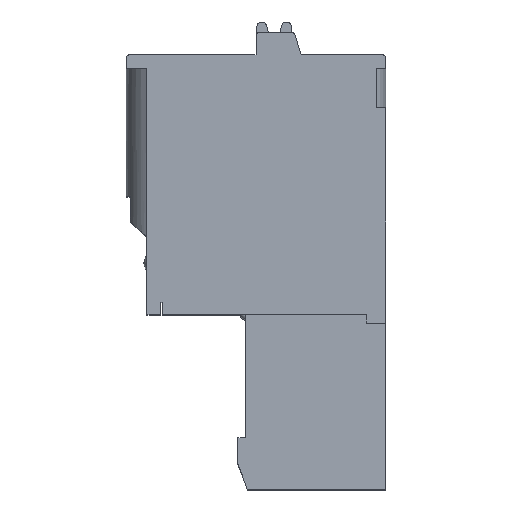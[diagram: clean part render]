
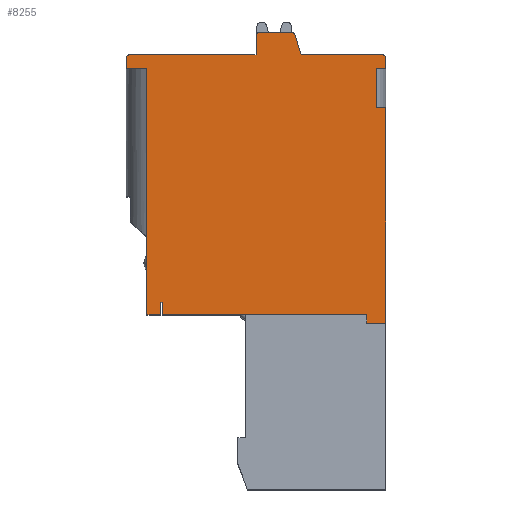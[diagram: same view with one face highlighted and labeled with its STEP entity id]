
A CAD part, top view. The second image highlights one B-rep face of the part: STEP entity #8255.
In plain terms, the highlighted planar face has unit normal (0, 0, 1).
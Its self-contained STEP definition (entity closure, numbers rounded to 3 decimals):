
#111=DIRECTION('',(1.,0.,0.));
#112=VECTOR('',#111,4.8);
#113=CARTESIAN_POINT('',(2.103,0.5,-15.24));
#114=LINE('',#113,#112);
#149=DIRECTION('',(0.,-1.,0.));
#150=VECTOR('',#149,0.7);
#151=CARTESIAN_POINT('',(2.103,1.2,-15.24));
#152=LINE('',#151,#150);
#165=DIRECTION('',(0.,1.,0.));
#166=VECTOR('',#165,0.7);
#167=CARTESIAN_POINT('',(2.003,0.5,-15.24));
#168=LINE('',#167,#166);
#169=DIRECTION('',(1.,0.,0.));
#170=VECTOR('',#169,0.8);
#171=CARTESIAN_POINT('',(1.203,0.5,-15.24));
#172=LINE('',#171,#170);
#181=DIRECTION('',(0.,-1.,0.));
#182=VECTOR('',#181,14.2);
#183=CARTESIAN_POINT('',(1.203,14.7,-15.24));
#184=LINE('',#183,#182);
#488=DIRECTION('',(-1.,0.,0.));
#489=VECTOR('',#488,7.3);
#490=CARTESIAN_POINT('',(7.503,15.5,-15.24));
#491=LINE('',#490,#489);
#652=DIRECTION('',(0.,1.,0.));
#653=VECTOR('',#652,0.6);
#654=CARTESIAN_POINT('',(15.003,14.7,-15.24));
#655=LINE('',#654,#653);
#768=DIRECTION('',(0.,1.,0.));
#769=VECTOR('',#768,12.45);
#770=CARTESIAN_POINT('',(15.003,0.,-15.24));
#771=LINE('',#770,#769);
#1174=DIRECTION('',(0.,-1.,0.));
#1175=VECTOR('',#1174,0.5);
#1176=CARTESIAN_POINT('',(13.903,0.5,-15.24));
#1177=LINE('',#1176,#1175);
#1186=DIRECTION('',(-1.,0.,0.));
#1187=VECTOR('',#1186,1.1);
#1188=CARTESIAN_POINT('',(15.003,0.,-15.24));
#1189=LINE('',#1188,#1187);
#1190=DIRECTION('',(-1.,0.,0.));
#1191=VECTOR('',#1190,7.);
#1192=CARTESIAN_POINT('',(13.903,0.5,-15.24));
#1193=LINE('',#1192,#1191);
#1194=DIRECTION('',(-1.,0.,0.));
#1195=VECTOR('',#1194,0.1);
#1196=CARTESIAN_POINT('',(2.103,1.2,-15.24));
#1197=LINE('',#1196,#1195);
#1198=CARTESIAN_POINT('',(0.203,15.3,-15.24));
#1199=DIRECTION('',(0.,0.,-1.));
#1200=DIRECTION('',(-1.,0.,0.));
#1201=AXIS2_PLACEMENT_3D('',#1198,#1199,#1200);
#1203=CARTESIAN_POINT('',(7.703,16.6,-15.24));
#1204=DIRECTION('',(0.,0.,-1.));
#1205=DIRECTION('',(-1.,0.,0.));
#1206=AXIS2_PLACEMENT_3D('',#1203,#1204,#1205);
#1208=DIRECTION('',(1.,0.,0.));
#1209=VECTOR('',#1208,1.852);
#1210=CARTESIAN_POINT('',(7.703,16.8,-15.24));
#1211=LINE('',#1210,#1209);
#1212=CARTESIAN_POINT('',(9.555,16.6,-15.24));
#1213=DIRECTION('',(0.,0.,-1.));
#1214=DIRECTION('',(0.,1.,0.));
#1215=AXIS2_PLACEMENT_3D('',#1212,#1213,#1214);
#1217=DIRECTION('',(0.294,-0.956,0.));
#1218=VECTOR('',#1217,1.212);
#1219=CARTESIAN_POINT('',(9.746,16.659,-15.24));
#1220=LINE('',#1219,#1218);
#1221=DIRECTION('',(1.,0.,0.));
#1222=VECTOR('',#1221,4.7);
#1223=CARTESIAN_POINT('',(10.103,15.5,-15.24));
#1224=LINE('',#1223,#1222);
#1225=CARTESIAN_POINT('',(14.803,15.3,-15.24));
#1226=DIRECTION('',(0.,0.,-1.));
#1227=DIRECTION('',(0.,1.,0.));
#1228=AXIS2_PLACEMENT_3D('',#1225,#1226,#1227);
#1805=DIRECTION('',(1.,0.,0.));
#1806=VECTOR('',#1805,1.2);
#1807=CARTESIAN_POINT('',(0.003,14.7,-15.24));
#1808=LINE('',#1807,#1806);
#1856=DIRECTION('',(0.,-1.,0.));
#1857=VECTOR('',#1856,0.6);
#1858=CARTESIAN_POINT('',(0.003,15.3,-15.24));
#1859=LINE('',#1858,#1857);
#2655=DIRECTION('',(0.,-1.,0.));
#2656=VECTOR('',#2655,1.1);
#2657=CARTESIAN_POINT('',(7.503,16.6,-15.24));
#2658=LINE('',#2657,#2656);
#2683=DIRECTION('',(1.,0.,0.));
#2684=VECTOR('',#2683,0.55);
#2685=CARTESIAN_POINT('',(14.453,14.7,-15.24));
#2686=LINE('',#2685,#2684);
#2708=DIRECTION('',(-1.,0.,0.));
#2709=VECTOR('',#2708,0.55);
#2710=CARTESIAN_POINT('',(15.003,12.45,-15.24));
#2711=LINE('',#2710,#2709);
#2721=DIRECTION('',(0.,1.,0.));
#2722=VECTOR('',#2721,2.25);
#2723=CARTESIAN_POINT('',(14.453,12.45,-15.24));
#2724=LINE('',#2723,#2722);
#4943=CARTESIAN_POINT('',(2.103,0.5,-15.24));
#4944=VERTEX_POINT('',#4943);
#4953=CARTESIAN_POINT('',(15.003,0.,-15.24));
#4955=VERTEX_POINT('',#4953);
#5042=CARTESIAN_POINT('',(6.903,0.5,-15.24));
#5043=VERTEX_POINT('',#5042);
#5064=CARTESIAN_POINT('',(1.203,0.5,-15.24));
#5065=CARTESIAN_POINT('',(2.003,0.5,-15.24));
#5066=VERTEX_POINT('',#5064);
#5067=VERTEX_POINT('',#5065);
#5068=CARTESIAN_POINT('',(1.203,14.7,-15.24));
#5069=VERTEX_POINT('',#5068);
#5070=CARTESIAN_POINT('',(0.003,14.7,-15.24));
#5071=VERTEX_POINT('',#5070);
#5072=CARTESIAN_POINT('',(0.003,15.3,-15.24));
#5073=VERTEX_POINT('',#5072);
#5074=CARTESIAN_POINT('',(0.203,15.5,-15.24));
#5075=VERTEX_POINT('',#5074);
#5076=CARTESIAN_POINT('',(7.503,15.5,-15.24));
#5077=VERTEX_POINT('',#5076);
#5078=CARTESIAN_POINT('',(7.503,16.6,-15.24));
#5079=VERTEX_POINT('',#5078);
#5080=CARTESIAN_POINT('',(7.703,16.8,-15.24));
#5081=VERTEX_POINT('',#5080);
#5082=CARTESIAN_POINT('',(9.555,16.8,-15.24));
#5083=VERTEX_POINT('',#5082);
#5084=CARTESIAN_POINT('',(9.746,16.659,-15.24));
#5085=VERTEX_POINT('',#5084);
#5086=CARTESIAN_POINT('',(10.103,15.5,-15.24));
#5087=VERTEX_POINT('',#5086);
#5088=CARTESIAN_POINT('',(14.803,15.5,-15.24));
#5089=VERTEX_POINT('',#5088);
#5090=CARTESIAN_POINT('',(15.003,15.3,-15.24));
#5091=VERTEX_POINT('',#5090);
#5092=CARTESIAN_POINT('',(15.003,14.7,-15.24));
#5093=VERTEX_POINT('',#5092);
#5094=CARTESIAN_POINT('',(14.453,14.7,-15.24));
#5095=VERTEX_POINT('',#5094);
#5096=CARTESIAN_POINT('',(14.453,12.45,-15.24));
#5097=VERTEX_POINT('',#5096);
#5098=CARTESIAN_POINT('',(15.003,12.45,-15.24));
#5099=VERTEX_POINT('',#5098);
#6013=CARTESIAN_POINT('',(2.103,1.2,-15.24));
#6015=VERTEX_POINT('',#6013);
#6020=CARTESIAN_POINT('',(13.903,0.5,-15.24));
#6021=CARTESIAN_POINT('',(13.903,0.,-15.24));
#6022=VERTEX_POINT('',#6020);
#6023=VERTEX_POINT('',#6021);
#6138=CARTESIAN_POINT('',(2.003,1.2,-15.24));
#6140=VERTEX_POINT('',#6138);
#8211=CARTESIAN_POINT('',(7.503,8.4,-15.24));
#8212=DIRECTION('',(0.,0.,1.));
#8213=DIRECTION('',(1.,0.,0.));
#8214=AXIS2_PLACEMENT_3D('',#8211,#8212,#8213);
#8215=PLANE('',#8214);
#8216=ORIENTED_EDGE('',*,*,#8174,.T.);
#8217=ORIENTED_EDGE('',*,*,#8201,.F.);
#8219=ORIENTED_EDGE('',*,*,#8218,.T.);
#8220=ORIENTED_EDGE('',*,*,#6396,.F.);
#8221=ORIENTED_EDGE('',*,*,#6425,.F.);
#8222=ORIENTED_EDGE('',*,*,#6441,.T.);
#8223=ORIENTED_EDGE('',*,*,#6455,.F.);
#8224=ORIENTED_EDGE('',*,*,#6467,.F.);
#8225=ORIENTED_EDGE('',*,*,#6491,.F.);
#8227=ORIENTED_EDGE('',*,*,#8226,.F.);
#8229=ORIENTED_EDGE('',*,*,#8228,.F.);
#8231=ORIENTED_EDGE('',*,*,#8230,.T.);
#8232=ORIENTED_EDGE('',*,*,#7142,.F.);
#8234=ORIENTED_EDGE('',*,*,#8233,.F.);
#8236=ORIENTED_EDGE('',*,*,#8235,.T.);
#8238=ORIENTED_EDGE('',*,*,#8237,.T.);
#8240=ORIENTED_EDGE('',*,*,#8239,.T.);
#8242=ORIENTED_EDGE('',*,*,#8241,.T.);
#8243=ORIENTED_EDGE('',*,*,#7289,.T.);
#8244=ORIENTED_EDGE('',*,*,#7362,.T.);
#8245=ORIENTED_EDGE('',*,*,#7378,.F.);
#8247=ORIENTED_EDGE('',*,*,#8246,.F.);
#8249=ORIENTED_EDGE('',*,*,#8248,.F.);
#8251=ORIENTED_EDGE('',*,*,#8250,.F.);
#8252=ORIENTED_EDGE('',*,*,#7598,.F.);
#8253=EDGE_LOOP('',(#8216,#8217,#8219,#8220,#8221,#8222,#8223,#8224,#8225,#8227,
#8229,#8231,#8232,#8234,#8236,#8238,#8240,#8242,#8243,#8244,#8245,#8247,#8249,
#8251,#8252));
#8254=FACE_OUTER_BOUND('',#8253,.F.);
#8255=ADVANCED_FACE('',(#8254),#8215,.T.);
#1202=CIRCLE('',#1201,0.2);
#1207=CIRCLE('',#1206,0.2);
#1216=CIRCLE('',#1215,0.2);
#1229=CIRCLE('',#1228,0.2);
#6396=EDGE_CURVE('',#4944,#5043,#114,.T.);
#6425=EDGE_CURVE('',#6015,#4944,#152,.T.);
#6441=EDGE_CURVE('',#6015,#6140,#1197,.T.);
#6455=EDGE_CURVE('',#5067,#6140,#168,.T.);
#6467=EDGE_CURVE('',#5066,#5067,#172,.T.);
#6491=EDGE_CURVE('',#5069,#5066,#184,.T.);
#7142=EDGE_CURVE('',#5077,#5075,#491,.T.);
#7289=EDGE_CURVE('',#5087,#5089,#1224,.T.);
#7362=EDGE_CURVE('',#5089,#5091,#1229,.T.);
#7378=EDGE_CURVE('',#5093,#5091,#655,.T.);
#7598=EDGE_CURVE('',#4955,#5099,#771,.T.);
#8174=EDGE_CURVE('',#4955,#6023,#1189,.T.);
#8201=EDGE_CURVE('',#6022,#6023,#1177,.T.);
#8218=EDGE_CURVE('',#6022,#5043,#1193,.T.);
#8226=EDGE_CURVE('',#5071,#5069,#1808,.T.);
#8228=EDGE_CURVE('',#5073,#5071,#1859,.T.);
#8230=EDGE_CURVE('',#5073,#5075,#1202,.T.);
#8233=EDGE_CURVE('',#5079,#5077,#2658,.T.);
#8235=EDGE_CURVE('',#5079,#5081,#1207,.T.);
#8237=EDGE_CURVE('',#5081,#5083,#1211,.T.);
#8239=EDGE_CURVE('',#5083,#5085,#1216,.T.);
#8241=EDGE_CURVE('',#5085,#5087,#1220,.T.);
#8246=EDGE_CURVE('',#5095,#5093,#2686,.T.);
#8248=EDGE_CURVE('',#5097,#5095,#2724,.T.);
#8250=EDGE_CURVE('',#5099,#5097,#2711,.T.);
